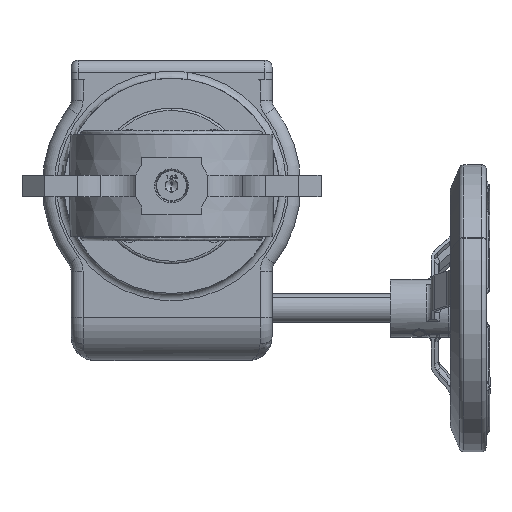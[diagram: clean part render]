
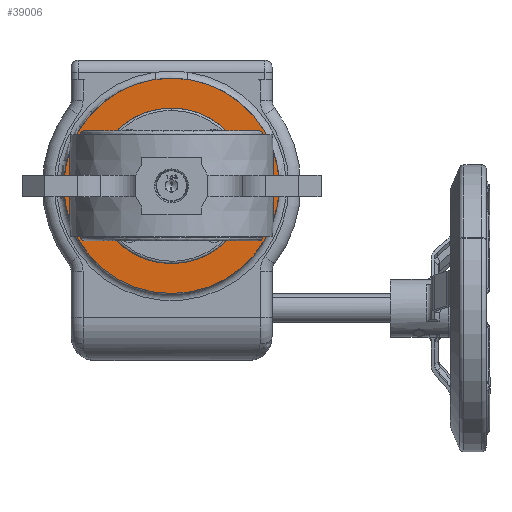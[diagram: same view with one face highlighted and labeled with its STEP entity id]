
A CAD part, front view. The second image highlights one B-rep face of the part: STEP entity #39006.
In plain terms, the highlighted planar face has unit normal (0, -1, 0).
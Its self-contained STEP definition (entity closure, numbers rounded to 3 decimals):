
#156 = VERTEX_POINT ( 'NONE', #38290 ) ;
#3679 = VERTEX_POINT ( 'NONE', #24950 ) ;
#4122 = VERTEX_POINT ( 'NONE', #63424 ) ;
#4981 = EDGE_CURVE ( 'NONE', #7581, #96269, #115163, .T. ) ;
#6254 = EDGE_CURVE ( 'NONE', #96269, #7581, #92267, .T. ) ;
#7581 = VERTEX_POINT ( 'NONE', #117316 ) ;
#7764 = CARTESIAN_POINT ( 'NONE',  ( -17.678, 140., -21.078 ) ) ;
#9803 = AXIS2_PLACEMENT_3D ( 'NONE', #51143, #14946, #51537 ) ;
#11012 = ORIENTED_EDGE ( 'NONE', *, *, #30492, .F. ) ;
#11217 = CIRCLE ( 'NONE', #41185, 45. ) ;
#13576 = CARTESIAN_POINT ( 'NONE',  ( -17.678, 140., 17.678 ) ) ;
#14495 = DIRECTION ( 'NONE',  ( 0., -1., 0. ) ) ;
#14946 = DIRECTION ( 'NONE',  ( 0., -1., 0. ) ) ;
#15856 = FACE_OUTER_BOUND ( 'NONE', #60453, .T. ) ;
#17257 = AXIS2_PLACEMENT_3D ( 'NONE', #56875, #92028, #37435 ) ;
#17950 = DIRECTION ( 'NONE',  ( 0., 0., -1. ) ) ;
#18540 = AXIS2_PLACEMENT_3D ( 'NONE', #113022, #48462, #94717 ) ;
#18793 = EDGE_CURVE ( 'NONE', #93277, #156, #29465, .T. ) ;
#20151 = EDGE_LOOP ( 'NONE', ( #26664, #53649 ) ) ;
#20748 = ORIENTED_EDGE ( 'NONE', *, *, #93815, .F. ) ;
#21287 = VERTEX_POINT ( 'NONE', #75995 ) ;
#21923 = CARTESIAN_POINT ( 'NONE',  ( -17.678, 140., 21.078 ) ) ;
#23681 = CARTESIAN_POINT ( 'NONE',  ( 0., 140., 17.5 ) ) ;
#24950 = CARTESIAN_POINT ( 'NONE',  ( 17.678, 140., 14.278 ) ) ;
#24973 = CARTESIAN_POINT ( 'NONE',  ( -17.678, 140., 17.678 ) ) ;
#25774 = CIRCLE ( 'NONE', #71996, 3.4 ) ;
#26664 = ORIENTED_EDGE ( 'NONE', *, *, #4981, .F. ) ;
#28608 = FACE_BOUND ( 'NONE', #75900, .T. ) ;
#28931 = CIRCLE ( 'NONE', #69750, 45. ) ;
#29465 = CIRCLE ( 'NONE', #114679, 17.5 ) ;
#30492 = EDGE_CURVE ( 'NONE', #95631, #21287, #44770, .T. ) ;
#30741 = CIRCLE ( 'NONE', #18540, 17.5 ) ;
#31884 = DIRECTION ( 'NONE',  ( 0., 0., -1. ) ) ;
#33003 = AXIS2_PLACEMENT_3D ( 'NONE', #13576, #86477, #31884 ) ;
#34008 = AXIS2_PLACEMENT_3D ( 'NONE', #73282, #54935, #72501 ) ;
#34198 = ORIENTED_EDGE ( 'NONE', *, *, #99163, .F. ) ;
#35303 = EDGE_CURVE ( 'NONE', #3679, #101153, #25774, .T. ) ;
#36350 = DIRECTION ( 'NONE',  ( 0., 0., -1. ) ) ;
#36599 = AXIS2_PLACEMENT_3D ( 'NONE', #61525, #106971, #69515 ) ;
#36871 = EDGE_LOOP ( 'NONE', ( #55981, #104301 ) ) ;
#37435 = DIRECTION ( 'NONE',  ( 0., 0., -1. ) ) ;
#38204 = PLANE ( 'NONE',  #17257 ) ;
#38290 = CARTESIAN_POINT ( 'NONE',  ( 0., 140., -17.5 ) ) ;
#38343 = ORIENTED_EDGE ( 'NONE', *, *, #61653, .F. ) ;
#39006 = ADVANCED_FACE ( 'NONE', ( #61390, #87035, #102705, #41399, #28608, #15856 ), #38204, .T. ) ;
#41185 = AXIS2_PLACEMENT_3D ( 'NONE', #105699, #14495, #106490 ) ;
#41399 = FACE_BOUND ( 'NONE', #20151, .T. ) ;
#42896 = DIRECTION ( 'NONE',  ( 0., -1., 0. ) ) ;
#44770 = CIRCLE ( 'NONE', #36599, 3.4 ) ;
#47703 = EDGE_CURVE ( 'NONE', #49501, #4122, #28931, .T. ) ;
#48462 = DIRECTION ( 'NONE',  ( 0., -1., 0. ) ) ;
#49501 = VERTEX_POINT ( 'NONE', #106498 ) ;
#50765 = CIRCLE ( 'NONE', #9803, 3.4 ) ;
#51143 = CARTESIAN_POINT ( 'NONE',  ( -17.678, 140., -17.678 ) ) ;
#51537 = DIRECTION ( 'NONE',  ( 0., 0., -1. ) ) ;
#52424 = ORIENTED_EDGE ( 'NONE', *, *, #18793, .F. ) ;
#53649 = ORIENTED_EDGE ( 'NONE', *, *, #6254, .F. ) ;
#54911 = CARTESIAN_POINT ( 'NONE',  ( 17.678, 140., 17.678 ) ) ;
#54935 = DIRECTION ( 'NONE',  ( 0., -1., 0. ) ) ;
#55981 = ORIENTED_EDGE ( 'NONE', *, *, #35303, .F. ) ;
#56697 = ORIENTED_EDGE ( 'NONE', *, *, #76356, .F. ) ;
#56875 = CARTESIAN_POINT ( 'NONE',  ( 0., 140., 0. ) ) ;
#59381 = CIRCLE ( 'NONE', #117977, 3.4 ) ;
#60453 = EDGE_LOOP ( 'NONE', ( #109927, #68573 ) ) ;
#61390 = FACE_BOUND ( 'NONE', #64729, .T. ) ;
#61525 = CARTESIAN_POINT ( 'NONE',  ( 17.678, 140., -17.678 ) ) ;
#61653 = EDGE_CURVE ( 'NONE', #66045, #73431, #85320, .T. ) ;
#63424 = CARTESIAN_POINT ( 'NONE',  ( 0., 140., -45. ) ) ;
#64729 = EDGE_LOOP ( 'NONE', ( #56697, #38343 ) ) ;
#65436 = CARTESIAN_POINT ( 'NONE',  ( 17.678, 140., 21.078 ) ) ;
#66045 = VERTEX_POINT ( 'NONE', #80554 ) ;
#68573 = ORIENTED_EDGE ( 'NONE', *, *, #89782, .T. ) ;
#69515 = DIRECTION ( 'NONE',  ( 0., 0., -1. ) ) ;
#69750 = AXIS2_PLACEMENT_3D ( 'NONE', #90962, #90569, #36350 ) ;
#70519 = DIRECTION ( 'NONE',  ( 0., 0., -1. ) ) ;
#71103 = DIRECTION ( 'NONE',  ( 0., 0., -1. ) ) ;
#71996 = AXIS2_PLACEMENT_3D ( 'NONE', #89273, #107966, #70519 ) ;
#72501 = DIRECTION ( 'NONE',  ( 0., 0., -1. ) ) ;
#73282 = CARTESIAN_POINT ( 'NONE',  ( -17.678, 140., -17.678 ) ) ;
#73431 = VERTEX_POINT ( 'NONE', #7764 ) ;
#75900 = EDGE_LOOP ( 'NONE', ( #52424, #20748 ) ) ;
#75995 = CARTESIAN_POINT ( 'NONE',  ( 17.678, 140., -14.278 ) ) ;
#76356 = EDGE_CURVE ( 'NONE', #73431, #66045, #50765, .T. ) ;
#79123 = DIRECTION ( 'NONE',  ( 0., -1., 0. ) ) ;
#80298 = AXIS2_PLACEMENT_3D ( 'NONE', #24973, #79123, #71103 ) ;
#80554 = CARTESIAN_POINT ( 'NONE',  ( -17.678, 140., -14.278 ) ) ;
#85320 = CIRCLE ( 'NONE', #34008, 3.4 ) ;
#86477 = DIRECTION ( 'NONE',  ( 0., -1., 0. ) ) ;
#87035 = FACE_BOUND ( 'NONE', #106252, .T. ) ;
#87289 = CARTESIAN_POINT ( 'NONE',  ( 17.678, 140., -17.678 ) ) ;
#88157 = AXIS2_PLACEMENT_3D ( 'NONE', #87289, #96442, #97217 ) ;
#89273 = CARTESIAN_POINT ( 'NONE',  ( 17.678, 140., 17.678 ) ) ;
#89782 = EDGE_CURVE ( 'NONE', #4122, #49501, #11217, .T. ) ;
#90569 = DIRECTION ( 'NONE',  ( 0., -1., 0. ) ) ;
#90856 = DIRECTION ( 'NONE',  ( 0., -1., 0. ) ) ;
#90962 = CARTESIAN_POINT ( 'NONE',  ( 0., 140., 0. ) ) ;
#92028 = DIRECTION ( 'NONE',  ( 0., -1., 0. ) ) ;
#92267 = CIRCLE ( 'NONE', #33003, 3.4 ) ;
#93277 = VERTEX_POINT ( 'NONE', #23681 ) ;
#93815 = EDGE_CURVE ( 'NONE', #156, #93277, #30741, .T. ) ;
#94717 = DIRECTION ( 'NONE',  ( 0., 0., -1. ) ) ;
#95631 = VERTEX_POINT ( 'NONE', #106210 ) ;
#96269 = VERTEX_POINT ( 'NONE', #21923 ) ;
#96442 = DIRECTION ( 'NONE',  ( 0., -1., 0. ) ) ;
#97217 = DIRECTION ( 'NONE',  ( 0., 0., -1. ) ) ;
#99163 = EDGE_CURVE ( 'NONE', #21287, #95631, #108102, .T. ) ;
#100401 = EDGE_CURVE ( 'NONE', #101153, #3679, #59381, .T. ) ;
#101153 = VERTEX_POINT ( 'NONE', #65436 ) ;
#102705 = FACE_BOUND ( 'NONE', #36871, .T. ) ;
#104301 = ORIENTED_EDGE ( 'NONE', *, *, #100401, .F. ) ;
#105699 = CARTESIAN_POINT ( 'NONE',  ( 0., 140., 0. ) ) ;
#106210 = CARTESIAN_POINT ( 'NONE',  ( 17.678, 140., -21.078 ) ) ;
#106252 = EDGE_LOOP ( 'NONE', ( #11012, #34198 ) ) ;
#106490 = DIRECTION ( 'NONE',  ( 0., 0., -1. ) ) ;
#106498 = CARTESIAN_POINT ( 'NONE',  ( 0., 140., 45. ) ) ;
#106971 = DIRECTION ( 'NONE',  ( 0., -1., 0. ) ) ;
#107966 = DIRECTION ( 'NONE',  ( 0., -1., 0. ) ) ;
#108102 = CIRCLE ( 'NONE', #88157, 3.4 ) ;
#109927 = ORIENTED_EDGE ( 'NONE', *, *, #47703, .T. ) ;
#113022 = CARTESIAN_POINT ( 'NONE',  ( 0., 140., 0. ) ) ;
#114628 = DIRECTION ( 'NONE',  ( 0., 0., -1. ) ) ;
#114679 = AXIS2_PLACEMENT_3D ( 'NONE', #115803, #42896, #114628 ) ;
#115163 = CIRCLE ( 'NONE', #80298, 3.4 ) ;
#115803 = CARTESIAN_POINT ( 'NONE',  ( 0., 140., 0. ) ) ;
#117316 = CARTESIAN_POINT ( 'NONE',  ( -17.678, 140., 14.278 ) ) ;
#117977 = AXIS2_PLACEMENT_3D ( 'NONE', #54911, #90856, #17950 ) ;
